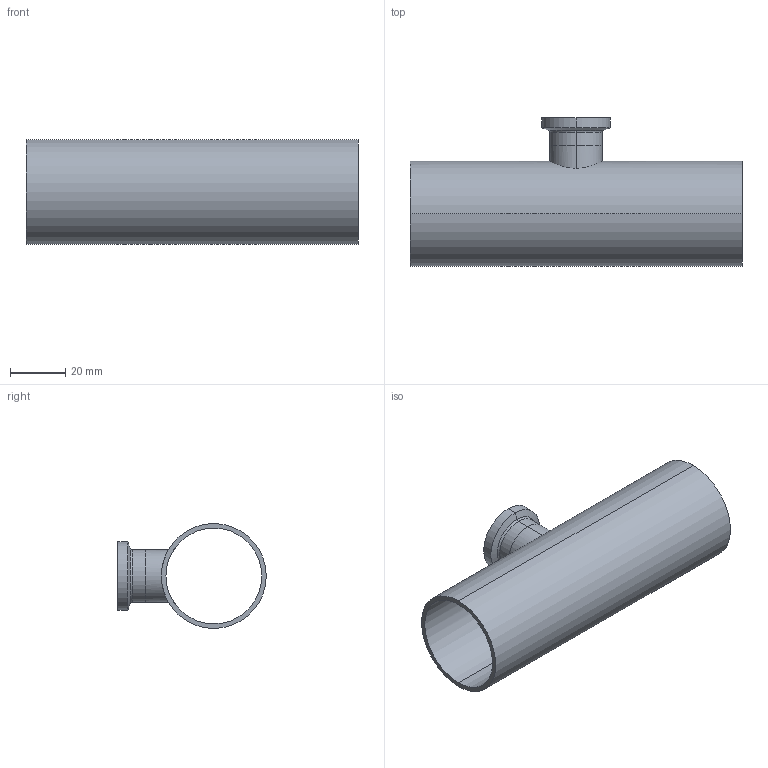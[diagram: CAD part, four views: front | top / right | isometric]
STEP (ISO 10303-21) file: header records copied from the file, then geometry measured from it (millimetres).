
FILE_DESCRIPTION (( 'STEP AP214' ), '1' );
FILE_NAME ('TE7RWWCS6L1.5x.75-...STEP', '2016-05-23T11:01:15', ( 'eran' ), ( '' ), 'SwSTEP 2.0', 'SolidWorks 2016', '' );
FILE_SCHEMA (( 'AUTOMOTIVE_DESIGN' ));
Length unit declared in the file: millimetre
Products named in the file (1): TE7RWWCS6L1.5x.75-..
Bounding box: 120.6 x 53.95 x 38.1 mm (x, y, z)
Volume: 24563.3 mm3; surface area: 30224.2 mm2
Topology: 2 solids, 2 shells, 34 faces, 70 edges, 42 vertices
Faces by surface type: cylinder 16, bspline 8, plane 6, cone 4
Entity records: 1235 total; most frequent: CARTESIAN_POINT 475, DIRECTION 158, ORIENTED_EDGE 140, EDGE_CURVE 70, AXIS2_PLACEMENT_3D 69, CIRCLE 42, EDGE_LOOP 42, VERTEX_POINT 42
